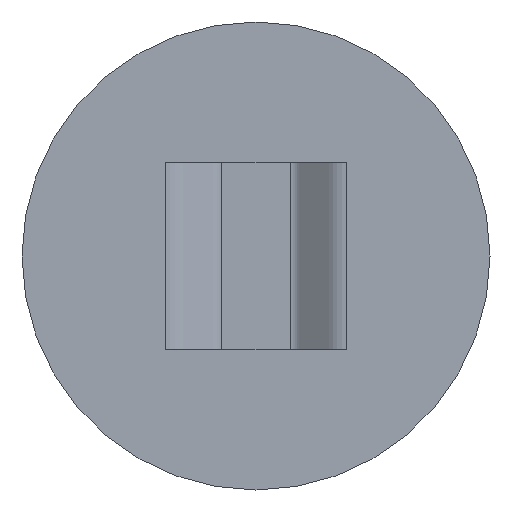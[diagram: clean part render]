
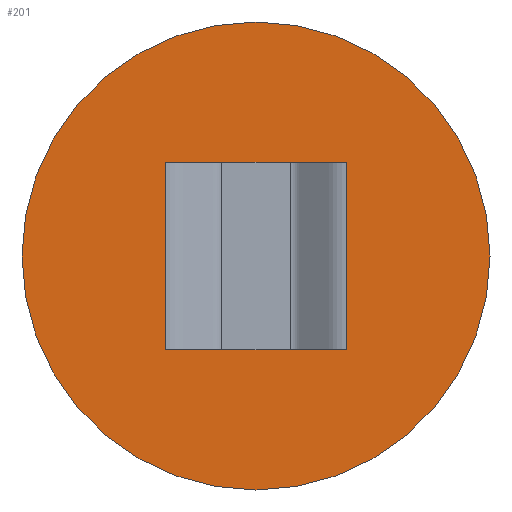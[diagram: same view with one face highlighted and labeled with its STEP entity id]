
A CAD part, front view. The second image highlights one B-rep face of the part: STEP entity #201.
In plain terms, the highlighted planar face has unit normal (0, -1, 0).
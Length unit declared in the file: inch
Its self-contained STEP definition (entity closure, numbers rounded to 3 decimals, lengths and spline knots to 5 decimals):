
#7 = ORIENTED_EDGE ( 'NONE', *, *, #594, .F. ) ;
#37 = VECTOR ( 'NONE', #290, 39.37008 ) ;
#72 = EDGE_CURVE ( 'NONE', #636, #76, #664, .T. ) ;
#73 = VERTEX_POINT ( 'NONE', #254 ) ;
#76 = VERTEX_POINT ( 'NONE', #147 ) ;
#103 = EDGE_LOOP ( 'NONE', ( #128, #247 ) ) ;
#107 = DIRECTION ( 'NONE',  ( -1., 0., 0. ) ) ;
#128 = ORIENTED_EDGE ( 'NONE', *, *, #327, .T. ) ;
#147 = CARTESIAN_POINT ( 'NONE',  ( 1., -0.063, 0.4015 ) ) ;
#156 = EDGE_CURVE ( 'NONE', #394, #614, #513, .T. ) ;
#161 = LINE ( 'NONE', #273, #623 ) ;
#166 = CARTESIAN_POINT ( 'NONE',  ( -1., -0.063, 0.4015 ) ) ;
#185 = CARTESIAN_POINT ( 'NONE',  ( 0.38554, -0.063, 0. ) ) ;
#200 = DIRECTION ( 'NONE',  ( 1., 0., 0. ) ) ;
#201 = ADVANCED_FACE ( 'NONE', ( #459, #276 ), #781, .F. ) ;
#239 = AXIS2_PLACEMENT_3D ( 'NONE', #506, #627, #315 ) ;
#245 = LINE ( 'NONE', #185, #625 ) ;
#247 = ORIENTED_EDGE ( 'NONE', *, *, #72, .T. ) ;
#254 = CARTESIAN_POINT ( 'NONE',  ( 0.38554, -0.063, 0. ) ) ;
#269 = VECTOR ( 'NONE', #200, 39.37008 ) ;
#273 = CARTESIAN_POINT ( 'NONE',  ( -0.38554, -0.063, 0. ) ) ;
#276 = FACE_BOUND ( 'NONE', #699, .T. ) ;
#281 = CARTESIAN_POINT ( 'NONE',  ( 0.38554, -0.063, 0.803 ) ) ;
#289 = EDGE_CURVE ( 'NONE', #314, #73, #161, .T. ) ;
#290 = DIRECTION ( 'NONE',  ( 0., 0., 1. ) ) ;
#313 = EDGE_CURVE ( 'NONE', #314, #394, #432, .T. ) ;
#314 = VERTEX_POINT ( 'NONE', #548 ) ;
#315 = DIRECTION ( 'NONE',  ( 1., 0., 0. ) ) ;
#327 = EDGE_CURVE ( 'NONE', #76, #636, #483, .T. ) ;
#346 = CARTESIAN_POINT ( 'NONE',  ( 0.8623, -0.063, 0.803 ) ) ;
#394 = VERTEX_POINT ( 'NONE', #613 ) ;
#409 = DIRECTION ( 'NONE',  ( 1., 0., 0. ) ) ;
#432 = LINE ( 'NONE', #610, #37 ) ;
#459 = FACE_OUTER_BOUND ( 'NONE', #103, .T. ) ;
#483 = CIRCLE ( 'NONE', #735, 1. ) ;
#486 = CARTESIAN_POINT ( 'NONE',  ( 0., -0.063, 0.4015 ) ) ;
#488 = DIRECTION ( 'NONE',  ( 0., -1., 0. ) ) ;
#506 = CARTESIAN_POINT ( 'NONE',  ( 0., -0.063, 0.4015 ) ) ;
#513 = LINE ( 'NONE', #771, #269 ) ;
#548 = CARTESIAN_POINT ( 'NONE',  ( -0.38554, -0.063, 0. ) ) ;
#576 = ORIENTED_EDGE ( 'NONE', *, *, #313, .T. ) ;
#586 = AXIS2_PLACEMENT_3D ( 'NONE', #346, #593, #107 ) ;
#593 = DIRECTION ( 'NONE',  ( 0., 1., 0. ) ) ;
#594 = EDGE_CURVE ( 'NONE', #73, #614, #245, .T. ) ;
#610 = CARTESIAN_POINT ( 'NONE',  ( -0.38554, -0.063, 0. ) ) ;
#613 = CARTESIAN_POINT ( 'NONE',  ( -0.38554, -0.063, 0.803 ) ) ;
#614 = VERTEX_POINT ( 'NONE', #281 ) ;
#623 = VECTOR ( 'NONE', #409, 39.37008 ) ;
#625 = VECTOR ( 'NONE', #685, 39.37008 ) ;
#627 = DIRECTION ( 'NONE',  ( 0., -1., 0. ) ) ;
#636 = VERTEX_POINT ( 'NONE', #166 ) ;
#664 = CIRCLE ( 'NONE', #239, 1. ) ;
#681 = DIRECTION ( 'NONE',  ( 1., 0., 0. ) ) ;
#685 = DIRECTION ( 'NONE',  ( 0., 0., 1. ) ) ;
#696 = ORIENTED_EDGE ( 'NONE', *, *, #289, .F. ) ;
#699 = EDGE_LOOP ( 'NONE', ( #696, #576, #765, #7 ) ) ;
#735 = AXIS2_PLACEMENT_3D ( 'NONE', #486, #488, #681 ) ;
#765 = ORIENTED_EDGE ( 'NONE', *, *, #156, .T. ) ;
#771 = CARTESIAN_POINT ( 'NONE',  ( -0.38554, -0.063, 0.803 ) ) ;
#781 = PLANE ( 'NONE',  #586 ) ;
